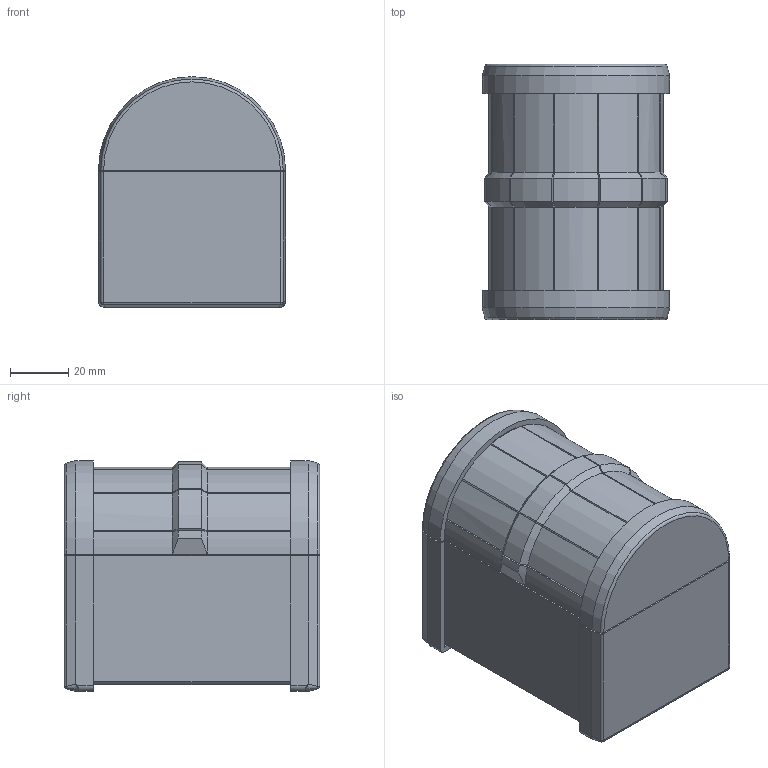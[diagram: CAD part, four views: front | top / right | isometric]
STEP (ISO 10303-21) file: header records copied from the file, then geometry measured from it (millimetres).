
FILE_DESCRIPTION(/* description */ (''),/* implementation_level */ '2;1');
FILE_NAME(/* name */ (''),/* time_stamp */ (''),/* author */ (''),/* organization */ (''),/* preprocessor_version */ 'ST-DEVELOPER v18.1',/* originating_system */ 'Autodesk Translation Framework v10.14.0.1471',/* authorisation */ '');
FILE_SCHEMA (('AUTOMOTIVE_DESIGN { 1 0 10303 214 3 1 1 }'));
Length unit declared in the file: millimetre
Products named in the file (1): Easy Print Treasure Chest Puzzle
Bounding box: 64.5 x 88 x 79.5 mm (x, y, z)
Volume: 191384.8 mm3; surface area: 98943.9 mm2
Topology: 10 solids, 10 shells, 470 faces, 1251 edges, 797 vertices
Faces by surface type: plane 337, cylinder 71, cone 52, bspline 8, torus 2
Full cylindrical faces by diameter (mm): 2 x3
Entity records: 14948 total; most frequent: CARTESIAN_POINT 3331, ORIENTED_EDGE 2484, DIRECTION 2261, EDGE_CURVE 1242, LINE 959, VECTOR 959, VERTEX_POINT 797, AXIS2_PLACEMENT_3D 651
